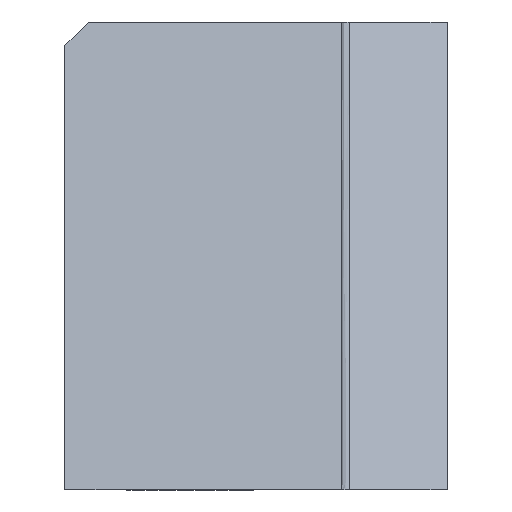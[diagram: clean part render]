
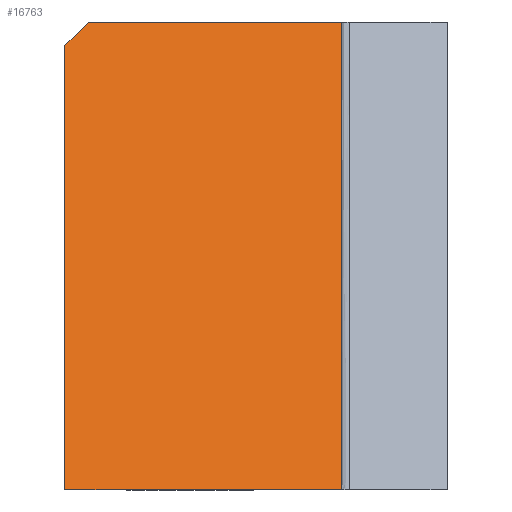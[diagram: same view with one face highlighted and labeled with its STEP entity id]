
A CAD part, left-side view. The second image highlights one B-rep face of the part: STEP entity #16763.
In plain terms, the highlighted planar face has unit normal (-0.943, 0, 0.334).
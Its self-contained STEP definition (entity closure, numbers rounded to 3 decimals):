
#1506=ORIENTED_EDGE('',*,*,#5084,.F.);
#1507=ORIENTED_EDGE('',*,*,#5085,.T.);
#1508=ORIENTED_EDGE('',*,*,#4339,.F.);
#1509=ORIENTED_EDGE('',*,*,#5086,.F.);
#1510=ORIENTED_EDGE('',*,*,#4781,.F.);
#4339=EDGE_CURVE('',#6128,#6129,#7301,.T.);
#4781=EDGE_CURVE('',#6569,#6571,#7598,.T.);
#5084=EDGE_CURVE('',#6873,#6569,#7801,.T.);
#5085=EDGE_CURVE('',#6873,#6129,#7802,.T.);
#5086=EDGE_CURVE('',#6571,#6128,#7803,.T.);
#6128=VERTEX_POINT('',#21472);
#6129=VERTEX_POINT('',#21473);
#6569=VERTEX_POINT('',#23283);
#6571=VERTEX_POINT('',#23286);
#6873=VERTEX_POINT('',#23892);
#7301=LINE('',#21471,#8690);
#7598=LINE('',#23285,#8987);
#7801=LINE('',#23891,#9190);
#7802=LINE('',#23893,#9191);
#7803=LINE('',#23894,#9192);
#8690=VECTOR('',#18199,1000.);
#8987=VECTOR('',#18520,1000.);
#9190=VECTOR('',#18925,1000.);
#9191=VECTOR('',#18926,1000.);
#9192=VECTOR('',#18927,1000.);
#10042=EDGE_LOOP('',(#1506,#1507,#1508,#1509,#1510));
#10833=FACE_BOUND('',#10042,.T.);
#11561=PLANE('',#17564);
#16763=ADVANCED_FACE('',(#10833),#11561,.T.);
#17564=AXIS2_PLACEMENT_3D('',#23890,#18923,#18924);
#18199=DIRECTION('',(0.,1.,0.));
#18520=DIRECTION('',(0.,-1.,0.));
#18923=DIRECTION('',(-0.942,0.,0.334));
#18924=DIRECTION('',(0.,1.,0.));
#18925=DIRECTION('',(0.243,-0.686,0.686));
#18926=DIRECTION('',(-0.334,0.,-0.942));
#18927=DIRECTION('',(-0.334,0.,-0.942));
#21471=CARTESIAN_POINT('',(-21.281,-35.5,-60.));
#21472=CARTESIAN_POINT('',(-21.281,-35.5,-60.));
#21473=CARTESIAN_POINT('',(-21.281,0.,-60.));
#23283=CARTESIAN_POINT('',(0.,-3.,0.));
#23285=CARTESIAN_POINT('',(0.,0.,0.));
#23286=CARTESIAN_POINT('',(0.,-35.5,0.));
#23890=CARTESIAN_POINT('',(0.,-35.5,0.));
#23891=CARTESIAN_POINT('',(2.609,-10.356,7.356));
#23892=CARTESIAN_POINT('',(-1.064,0.,-3.));
#23893=CARTESIAN_POINT('',(0.,0.,0.));
#23894=CARTESIAN_POINT('',(0.,-35.5,0.));
